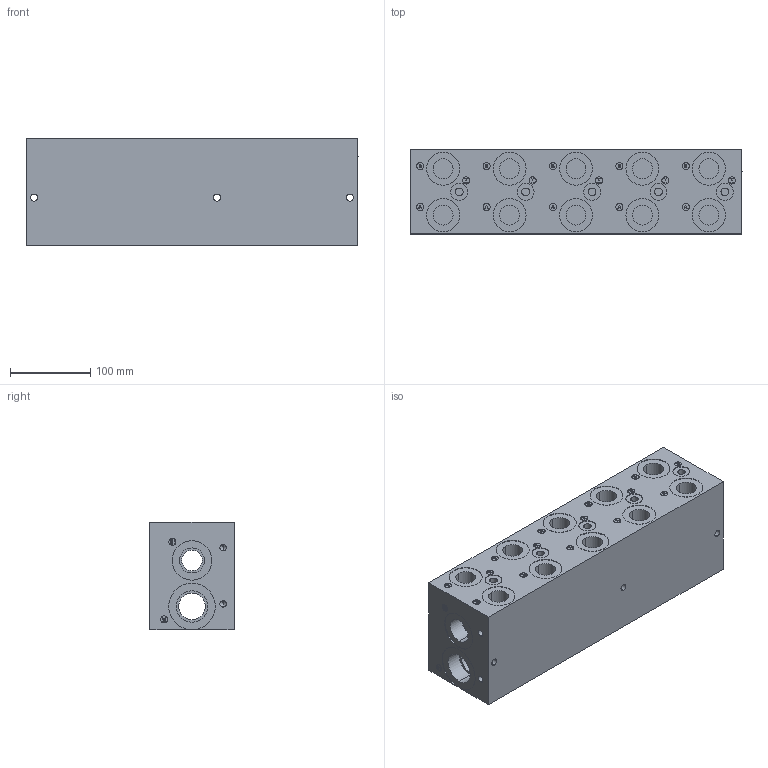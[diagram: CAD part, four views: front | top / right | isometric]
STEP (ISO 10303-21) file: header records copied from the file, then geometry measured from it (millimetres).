
FILE_DESCRIPTION (( 'STEP AP203' ), '1' );
FILE_NAME ('BM-AHP05HS3-05-1_Z.STEP', '2015-01-06T16:20:15', ( '' ), ( '' ), 'SwSTEP 2.0', 'SolidWorks 2014', '' );
FILE_SCHEMA (( 'CONFIG_CONTROL_DESIGN' ));
Length unit declared in the file: inch
Products named in the file (1): BM-AHP05HS3-05-1_Z
Bounding box: 412.75 x 104.65 x 133.35 mm (x, y, z)
Volume: 5003047.5 mm3; surface area: 346739.9 mm2
Topology: 1 solids, 1 shells, 911 faces, 2217 edges, 1393 vertices
Faces by surface type: plane 427, cylinder 309, cone 110, bspline 65
Entity records: 30002 total; most frequent: CARTESIAN_POINT 8931, DIRECTION 4269, ORIENTED_EDGE 4234, EDGE_CURVE 2117, AXIS2_PLACEMENT_3D 1465, VERTEX_POINT 1393, LINE 1339, VECTOR 1339
